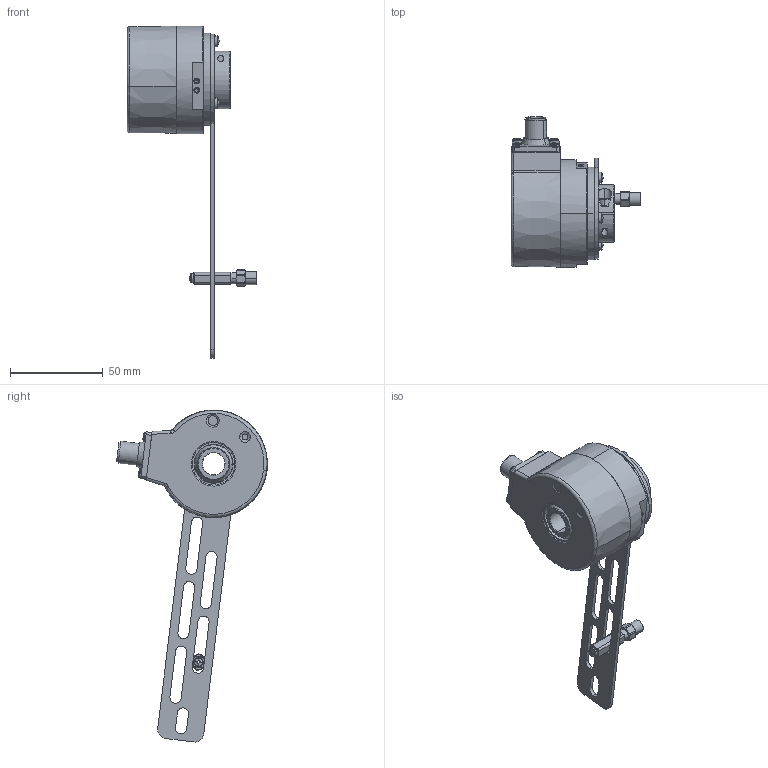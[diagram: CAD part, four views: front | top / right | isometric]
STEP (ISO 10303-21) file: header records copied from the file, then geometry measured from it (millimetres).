
FILE_DESCRIPTION (( 'STEP AP214' ), '1' );
FILE_NAME ('5834SIL.A4X6.XXXX.STEP', '2010-08-13T08:02:00', ( 'admin' ), ( 'Fritz Kübler GmbH' ), 'SwSTEP 2.0', 'SolidWorks 2009', '' );
FILE_SCHEMA (( 'AUTOMOTIVE_DESIGN' ));
Length unit declared in the file: millimetre
Products named in the file (1): 5834SIL.A4X6.XXXX
Bounding box: 70 x 81.25 x 178.83 mm (x, y, z)
Surface area: 32358.4 mm2 (no closed solid volume)
Topology: 0 solids, 30 shells, 417 faces, 1200 edges, 799 vertices
Faces by surface type: plane 168, cylinder 133, cone 62, sphere 32, torus 18, bspline 4
Entity records: 18877 total; most frequent: CARTESIAN_POINT 3283, DIRECTION 2477, ORIENTED_EDGE 2045, EDGE_CURVE 1168, AXIS2_PLACEMENT_3D 967, VERTEX_POINT 783, CIRCLE 553, VECTOR 543
